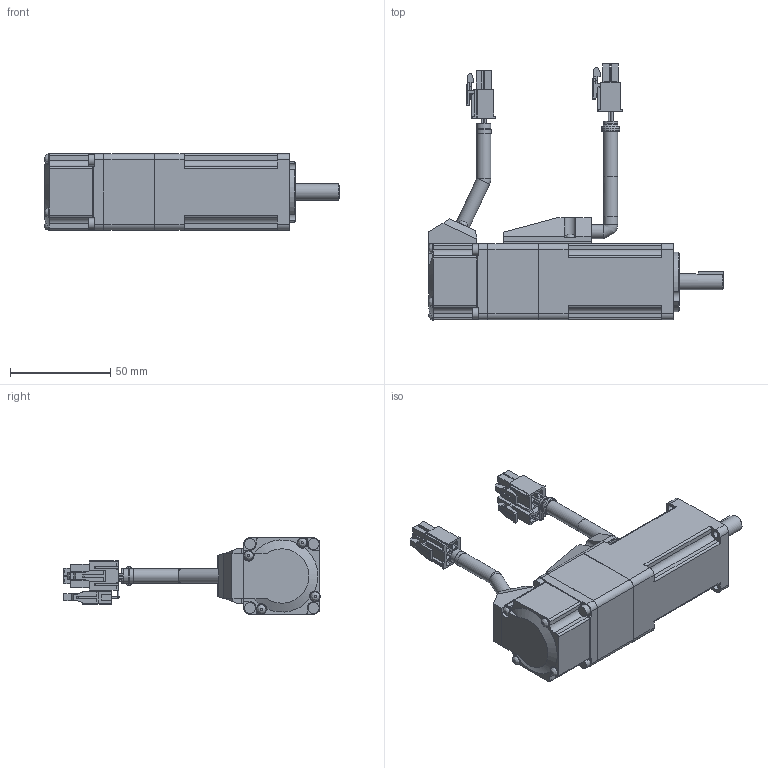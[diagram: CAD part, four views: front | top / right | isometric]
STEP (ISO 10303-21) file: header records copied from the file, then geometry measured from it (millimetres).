
FILE_DESCRIPTION( ( 'STEP AP203' ), '1' );
FILE_NAME( '//expscmdclustefs.cadenas.external/client_exchange/iodir/jobs/output/wkb71153293_no0/STEP/_MSMD012P1TA_2_03.stp', ' ', ( ' ' ), ( ' ' ), 'PSStep 15.0.47', 'PARTsolutions', ' ' );
FILE_SCHEMA( ( 'CONFIG_CONTROL_DESIGN' ) );
Length unit declared in the file: millimetre
Products named in the file (9):  MSMD012P1TA; HI_Motor--01-BPBB; HI_Motoplug--01B; HI_Brake--01P; HI_Motor Connector; HI_Brake Connector; HI_Encoder--01P; HI_Cabel  brake--01-P-4; HI_2500 p/r Connector
Assembly tree (8 placements, depth 2):
   MSMD012P1TA
    HI_Motor--01-BPBB
    HI_Motoplug--01B
    HI_Brake--01P
    HI_Motor Connector
    HI_Brake Connector
    HI_Encoder--01P
    HI_Cabel  brake--01-P-4
    HI_2500 p/r Connector
Bounding box: 147.03 x 127.8 x 38.2 mm (x, y, z)
Volume: 193494.7 mm3; surface area: 38955.4 mm2
Topology: 8 solids, 8 shells, 769 faces, 1961 edges, 1280 vertices
Faces by surface type: plane 565, cylinder 170, cone 17, torus 9, bspline 8
Full cylindrical faces by diameter (mm): 1 x14, 1.82 x4, 2.459 x1, 2.6 x12, 3.4 x4, 4.5 x4, 4.6 x3, 5 x4, 5.5 x7, 7 x7, 7.2 x1, 8 x1, 9 x1, 12.5 x1, 16.5 x1
Entity records: 22918 total; most frequent: CARTESIAN_POINT 4277, DIRECTION 3744, ORIENTED_EDGE 3678, EDGE_CURVE 1839, LINE 1422, VECTOR 1422, VERTEX_POINT 1252, AXIS2_PLACEMENT_3D 1161
